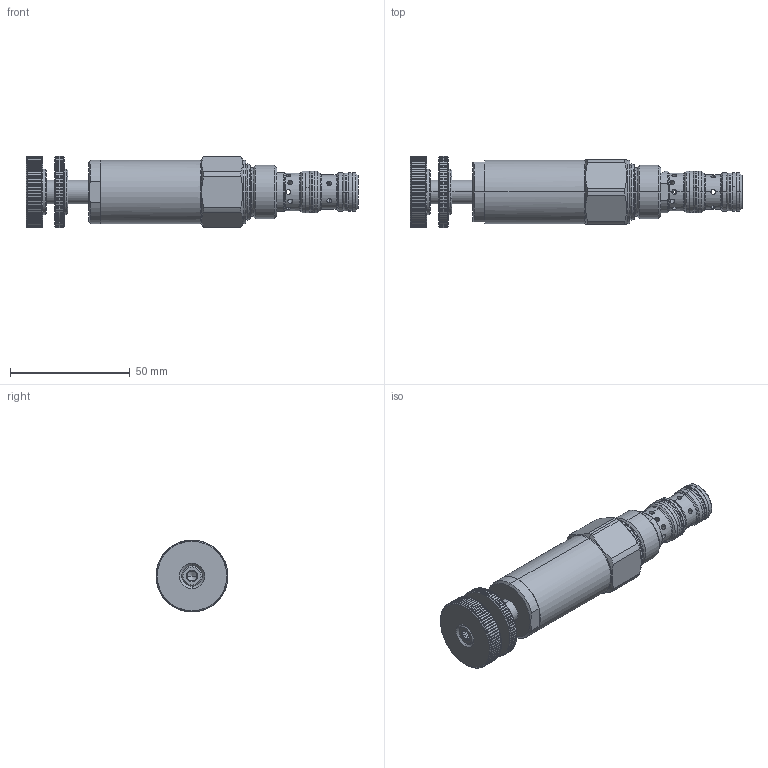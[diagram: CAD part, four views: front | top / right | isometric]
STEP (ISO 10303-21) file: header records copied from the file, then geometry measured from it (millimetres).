
FILE_DESCRIPTION (( 'STEP AP214' ), '1' );
FILE_NAME ('MDDPU10-200.STEP', '2017-09-05T09:02:13', ( '' ), ( '' ), 'SwSTEP 2.0', 'SolidWorks 2016', '' );
FILE_SCHEMA (( 'AUTOMOTIVE_DESIGN' ));
Length unit declared in the file: millimetre
Products named in the file (1): MDDPU10-200
Bounding box: 138.75 x 30 x 30 mm (x, y, z)
Volume: 57693.9 mm3; surface area: 16875.7 mm2
Topology: 6 solids, 7 shells, 835 faces, 2310 edges, 1473 vertices
Faces by surface type: plane 391, cylinder 296, cone 90, torus 34, bspline 24
Entity records: 37702 total; most frequent: CARTESIAN_POINT 8342, ORIENTED_EDGE 4588, DIRECTION 3798, EDGE_CURVE 2294, AXIS2_PLACEMENT_3D 1513, VERTEX_POINT 1473, EDGE_LOOP 881, UNCERTAINTY_MEASURE_WITH_UNIT 843
